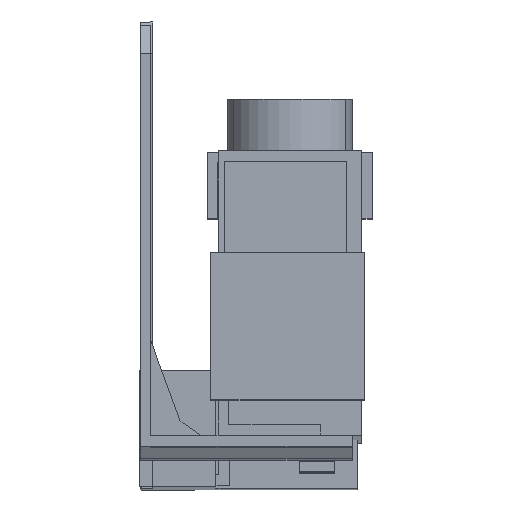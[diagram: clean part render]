
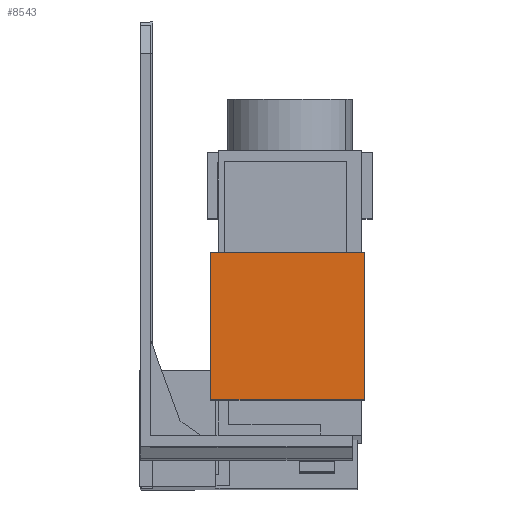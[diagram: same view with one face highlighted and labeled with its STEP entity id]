
A CAD part, front view. The second image highlights one B-rep face of the part: STEP entity #8543.
In plain terms, the highlighted planar face has unit normal (0, -1, 0.003).
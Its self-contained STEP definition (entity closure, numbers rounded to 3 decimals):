
#736 = EDGE_LOOP ( 'NONE', ( #1194, #1195, #1196, #1197 ) ) ;
#1194 = ORIENTED_EDGE ( 'NONE', *, *, #7275, .F. ) ;
#1195 = ORIENTED_EDGE ( 'NONE', *, *, #8260, .F. ) ;
#1196 = ORIENTED_EDGE ( 'NONE', *, *, #7752, .T. ) ;
#1197 = ORIENTED_EDGE ( 'NONE', *, *, #8142, .F. ) ;
#1618 = VECTOR ( 'NONE', #4778, 1000. ) ;
#1620 = LINE ( 'NONE', #4993, #1618 ) ;
#2263 = CARTESIAN_POINT ( 'NONE',  ( 9.3, -31.509, -40.315 ) ) ;
#2294 = DIRECTION ( 'NONE',  ( 1., 0., 0. ) ) ;
#2486 = VECTOR ( 'NONE', #2294, 1000. ) ;
#2504 = LINE ( 'NONE', #2263, #2486 ) ;
#2996 = VECTOR ( 'NONE', #5751, 1000. ) ;
#3002 = LINE ( 'NONE', #5750, #2996 ) ;
#3230 = LINE ( 'NONE', #6012, #3231 ) ;
#3231 = VECTOR ( 'NONE', #6013, 1000. ) ;
#3939 = CARTESIAN_POINT ( 'NONE',  ( 31.95, -31.509, -40.315 ) ) ;
#3951 = CARTESIAN_POINT ( 'NONE',  ( 10.05, -31.509, -40.315 ) ) ;
#4259 = CARTESIAN_POINT ( 'NONE',  ( 31.95, -31.452, -19.316 ) ) ;
#4668 = CARTESIAN_POINT ( 'NONE',  ( 10.05, -31.452, -19.316 ) ) ;
#4778 = DIRECTION ( 'NONE',  ( 1., 0., 0. ) ) ;
#4993 = CARTESIAN_POINT ( 'NONE',  ( 9.3, -31.452, -19.316 ) ) ;
#5089 = VERTEX_POINT ( 'NONE', #4668 ) ;
#5093 = VERTEX_POINT ( 'NONE', #4259 ) ;
#5125 = VERTEX_POINT ( 'NONE', #3951 ) ;
#5131 = VERTEX_POINT ( 'NONE', #3939 ) ;
#5750 = CARTESIAN_POINT ( 'NONE',  ( 31.95, -31.452, -19.316 ) ) ;
#5751 = DIRECTION ( 'NONE',  ( 0., -0.003, -1. ) ) ;
#6012 = CARTESIAN_POINT ( 'NONE',  ( 10.05, -31.509, -40.315 ) ) ;
#6013 = DIRECTION ( 'NONE',  ( 0., 0.003, 1. ) ) ;
#7275 = EDGE_CURVE ( 'NONE', #5089, #5093, #1620, .T. ) ;
#7464 = AXIS2_PLACEMENT_3D ( 'NONE', #8785, #8791, #8792 ) ;
#7752 = EDGE_CURVE ( 'NONE', #5125, #5131, #2504, .T. ) ;
#8142 = EDGE_CURVE ( 'NONE', #5093, #5131, #3002, .T. ) ;
#8260 = EDGE_CURVE ( 'NONE', #5125, #5089, #3230, .T. ) ;
#8543 = ADVANCED_FACE ( 'NONE', ( #9093 ), #8782, .T. ) ;
#8782 = PLANE ( 'NONE',  #7464 ) ;
#8785 = CARTESIAN_POINT ( 'NONE',  ( 9.3, -31.509, -40.315 ) ) ;
#8791 = DIRECTION ( 'NONE',  ( 0., -1., 0.003 ) ) ;
#8792 = DIRECTION ( 'NONE',  ( -1., 0., 0. ) ) ;
#9093 = FACE_OUTER_BOUND ( 'NONE', #736, .T. ) ;
